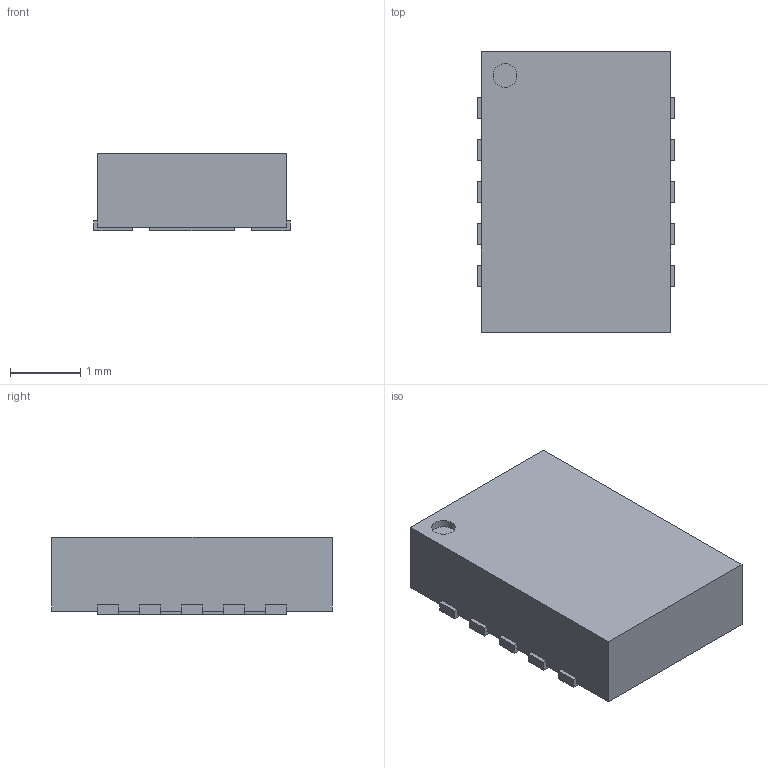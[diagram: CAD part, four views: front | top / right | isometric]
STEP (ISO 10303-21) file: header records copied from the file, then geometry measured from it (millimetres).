
FILE_DESCRIPTION(('FreeCAD Model'),'2;1');
FILE_NAME('/var/www/3D/0T/889768.1.1.stp','2019-12-11T10:44:11',( 'Author'),(''),'Open CASCADE STEP processor 6.9','FreeCAD','Unknown' );
FILE_SCHEMA(('AUTOMOTIVE_DESIGN { 1 0 10303 214 1 1 1 1 }'));
Length unit declared in the file: millimetre
Products named in the file (4): ASSEMBLY; Body; ThermalPin; PinsArrayLR
Assembly tree (3 placements, depth 2):
  ASSEMBLY
    Body
    ThermalPin
    PinsArrayLR
Bounding box: 2.8 x 4 x 1.1 mm (x, y, z)
Volume: 12 mm3; surface area: 48.2 mm2
Topology: 12 solids, 12 shells, 74 faces, 147 edges, 98 vertices
Faces by surface type: plane 73, cylinder 1
Full cylindrical faces by diameter (mm): 0.338 x1
Entity records: 3939 total; most frequent: CARTESIAN_POINT 617, DIRECTION 599, LINE 437, VECTOR 437, ORIENTED_EDGE 294, PCURVE 294, DEFINITIONAL_REPRESENTATION 294, EDGE_CURVE 147
